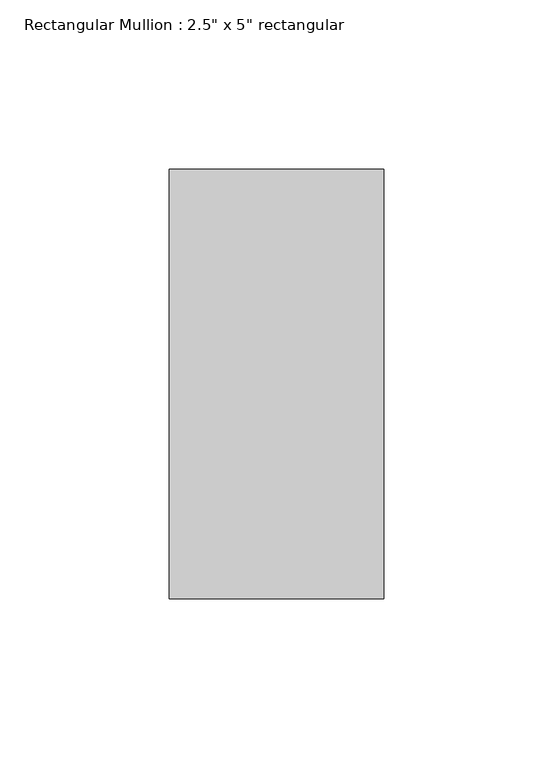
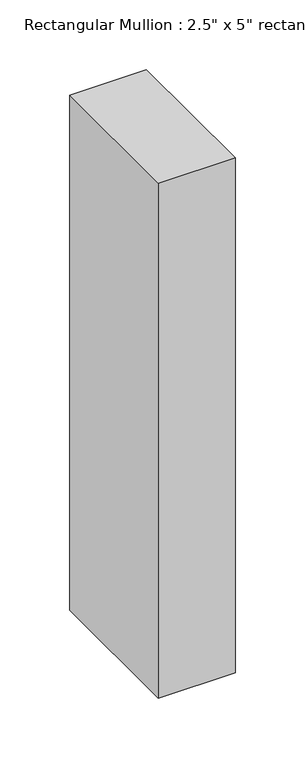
"""IFC4 building model written with IfcOpenShell, lengths in millimetres: member geometry."""

from ifc_helpers import new_model, si_unit, frame, origin, place, context, project, spatial, polyline, outline, extrude, source, transform, mapped, element, save


def member_3ebf181e(model_context):
    return source(origin(), model_context, "Body", "SweptSolid", [
        extrude(outline(polyline([(0.0, 63.5), (0.0, -63.5), (-63.5, -63.5), (-63.5, 63.5), (0.0, 63.5)])), frame((0.0, 0.0, -450.6909107), z_axis=(0.0, 0.0, 1.0), x_axis=(1.0, 0.0, 0.0)), (0.0, 0.0, 1.0), 450.6909107),
    ])


if __name__ == "__main__":
    model = new_model("IFC4")
    model_context = context("Model", 3, world=origin())
    ifc_project = project(units=[si_unit("LENGTHUNIT", "METRE", prefix="MILLI")], contexts=[model_context])
    site = spatial("IfcSite", under=ifc_project)
    building = spatial("IfcBuilding", under=site)
    placement = place(None, origin())
    member_shape = member_3ebf181e(model_context)
    element("IfcMember", 1, ObjectType="Rectangular Mullion : 2.5\" x 5\" rectangular", at=placement, inside=building, context=model_context, shape_type="MappedRepresentation", body=[
        mapped(member_shape, transform((0.0, 0.0, 0.0), x_axis=(1.0, 0.0, 0.0), y_axis=(0.0, 1.0, 0.0), z_axis=(0.0, 0.0, 1.0))),
    ])
    save(model, "model.ifc")
